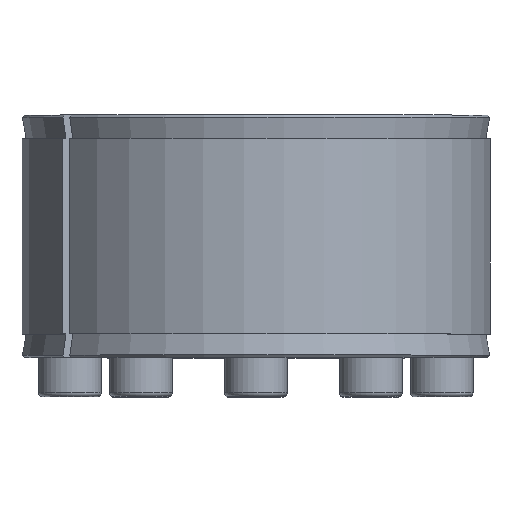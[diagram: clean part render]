
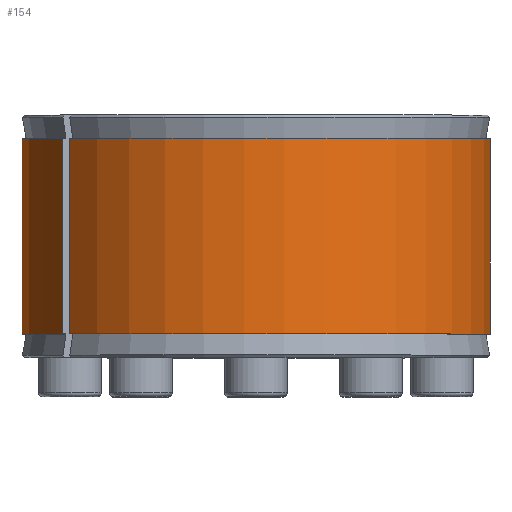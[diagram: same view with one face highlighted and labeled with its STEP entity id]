
A CAD part, top view. The second image highlights one B-rep face of the part: STEP entity #154.
In plain terms, the highlighted cylindrical face has radius 60 mm (diameter 120 mm), a partial arc.
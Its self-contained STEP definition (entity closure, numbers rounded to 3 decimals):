
#154 = ADVANCED_FACE( '', ( #364 ), #365, .T. );
#364 = FACE_OUTER_BOUND( '', #666, .T. );
#365 = CYLINDRICAL_SURFACE( '', #667, 60. );
#666 = EDGE_LOOP( '', ( #1136, #1137, #1138, #1139 ) );
#667 = AXIS2_PLACEMENT_3D( '', #1140, #1141, #1142 );
#1136 = ORIENTED_EDGE( '', *, *, #1736, .T. );
#1137 = ORIENTED_EDGE( '', *, *, #1737, .T. );
#1138 = ORIENTED_EDGE( '', *, *, #1738, .F. );
#1139 = ORIENTED_EDGE( '', *, *, #1674, .T. );
#1140 = CARTESIAN_POINT( '', ( 0., -60., 0. ) );
#1141 = DIRECTION( '', ( 0., 1., 0. ) );
#1142 = DIRECTION( '', ( 0., 0., -1. ) );
#1674 = EDGE_CURVE( '', #2050, #2048, #2051, .F. );
#1736 = EDGE_CURVE( '', #2048, #2145, #2146, .T. );
#1737 = EDGE_CURVE( '', #2145, #2147, #2148, .T. );
#1738 = EDGE_CURVE( '', #2050, #2147, #2149, .T. );
#2048 = VERTEX_POINT( '', #2638 );
#2050 = VERTEX_POINT( '', #2641 );
#2051 = LINE( '', #2642, #2643 );
#2145 = VERTEX_POINT( '', #2786 );
#2146 = CIRCLE( '', #2787, 60. );
#2147 = VERTEX_POINT( '', #2788 );
#2148 = LINE( '', #2789, #2790 );
#2149 = CIRCLE( '', #2791, 60. );
#2638 = CARTESIAN_POINT( '', ( -49.408, 56., 34.043 ) );
#2641 = CARTESIAN_POINT( '', ( -49.408, 6., 34.043 ) );
#2642 = CARTESIAN_POINT( '', ( -49.408, -60., 34.043 ) );
#2643 = VECTOR( '', #3223, 1000. );
#2786 = CARTESIAN_POINT( '', ( -47.644, 56., 36.47 ) );
#2787 = AXIS2_PLACEMENT_3D( '', #3329, #3330, #3331 );
#2788 = CARTESIAN_POINT( '', ( -47.644, 6., 36.47 ) );
#2789 = CARTESIAN_POINT( '', ( -47.644, -60., 36.47 ) );
#2790 = VECTOR( '', #3332, 1000. );
#2791 = AXIS2_PLACEMENT_3D( '', #3333, #3334, #3335 );
#3223 = DIRECTION( '', ( 0., -1., 0. ) );
#3329 = CARTESIAN_POINT( '', ( 0., 56., 0. ) );
#3330 = DIRECTION( '', ( 0., -1., 0. ) );
#3331 = DIRECTION( '', ( 0., 0., -1. ) );
#3332 = DIRECTION( '', ( 0., -1., 0. ) );
#3333 = CARTESIAN_POINT( '', ( 0., 6., 0. ) );
#3334 = DIRECTION( '', ( 0., -1., 0. ) );
#3335 = DIRECTION( '', ( 0., 0., -1. ) );
